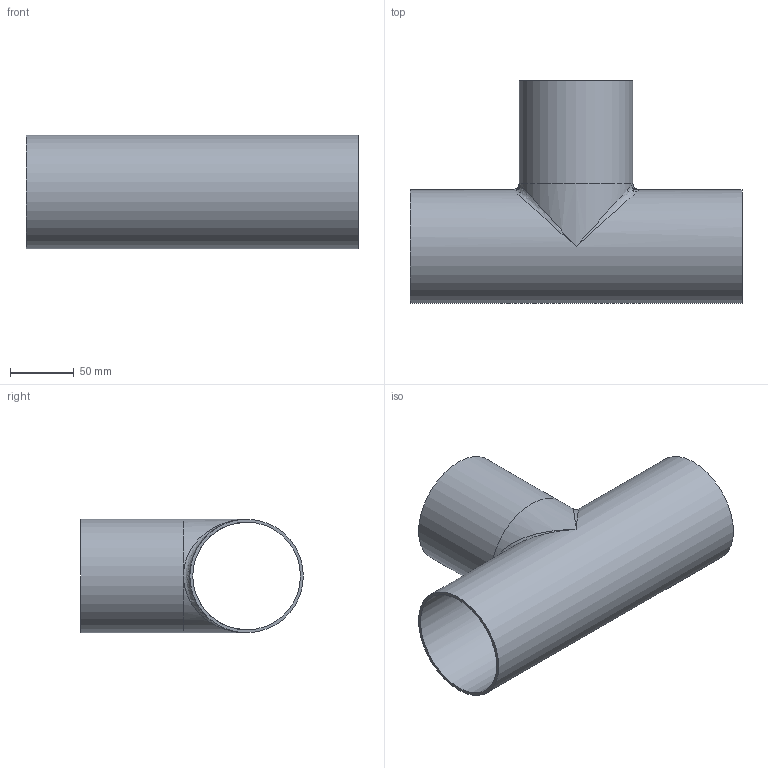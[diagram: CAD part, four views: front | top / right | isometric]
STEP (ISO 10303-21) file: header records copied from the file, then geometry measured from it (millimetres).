
FILE_DESCRIPTION(/* description */ ('DOCKWEILER AG - 19306 Germany - An der Autobahn 10/20'),/* implementation_level */ '2;1');
FILE_NAME(/* name */ '\\Dwgfs01\cad\CAD\Projekte\N0010_001_001_001\T_88,9x2,3_88,9x2,3_L260_l130_V00.ipt.stp',/* time_stamp */ '2014-07-04T12:11:27+02:00',/* author */ ('DOCKWEILER AG - 19306 Germany - An der Autobahn 10/20'),/* organization */ ('DOCKWEILER AG - 19306 Germany - An der Autobahn 10/20'),/* preprocessor_version */ 'ST-DEVELOPER v15.6',/* originating_system */ 'Autodesk Inventor 2015',/* authorisation */ '');
FILE_SCHEMA (('CONFIG_CONTROL_DESIGN'));
Length unit declared in the file: millimetre
Products named in the file (1): T_88,9x2,3_88,9x2,3_L260_l130_V00
Bounding box: 260 x 174.45 x 88.9 mm (x, y, z)
Volume: 209566.3 mm3; surface area: 184880.9 mm2
Topology: 2 solids, 2 shells, 16 faces, 41 edges, 20 vertices
Faces by surface type: cylinder 7, plane 5, bspline 4
Full cylindrical faces by diameter (mm): 84.3 x3, 88.9 x2
Entity records: 1545 total; most frequent: CARTESIAN_POINT 1209, DIRECTION 68, ORIENTED_EDGE 42, AXIS2_PLACEMENT_3D 34, EDGE_LOOP 28, EDGE_CURVE 21, STYLED_ITEM 18, FACE_OUTER_BOUND 16
